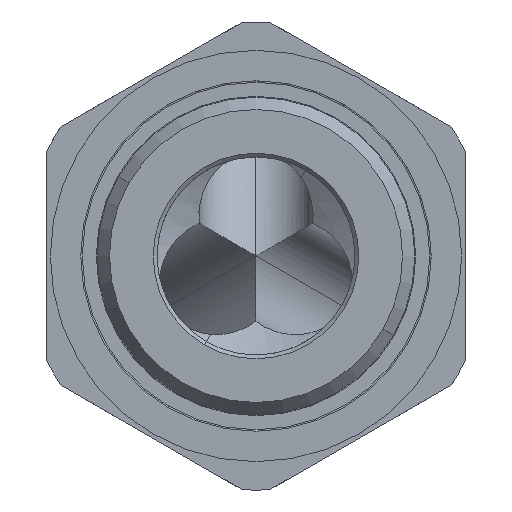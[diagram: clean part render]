
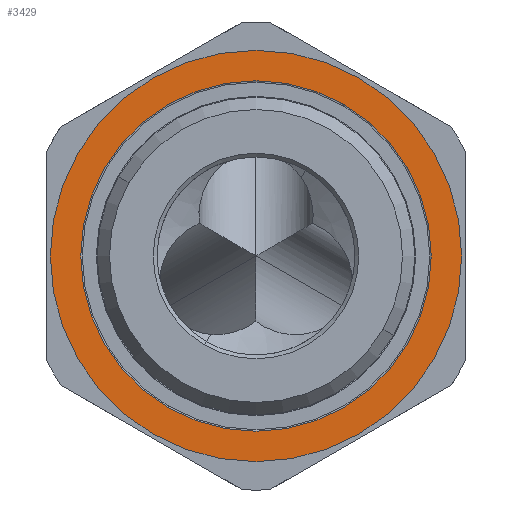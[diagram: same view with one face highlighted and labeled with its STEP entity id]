
A CAD part, front view. The second image highlights one B-rep face of the part: STEP entity #3429.
In plain terms, the highlighted planar face has unit normal (0, -1, 0) as drawn and (-1, 0, 0) by its records, which use the part's own axes.
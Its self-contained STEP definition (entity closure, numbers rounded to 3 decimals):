
#380=CARTESIAN_POINT('',(52.0,22.075,0.));
#381=VERTEX_POINT('',#380);
#390=CARTESIAN_POINT('',(52.0,-31.975,0.));
#391=VERTEX_POINT('',#390);
#392=CARTESIAN_POINT('',(52.0,-4.95,0.0));
#393=DIRECTION('',(-1.0,0.0,0.0));
#394=DIRECTION('',(0.0,1.0,0.0));
#395=AXIS2_PLACEMENT_3D('',#392,#393,#394);
#396=CIRCLE('',#395,27.025);
#397=EDGE_CURVE('',#391,#381,#396,.T.);
#554=CARTESIAN_POINT('',(52.0,18.075,0.));
#555=VERTEX_POINT('',#554);
#564=CARTESIAN_POINT('',(52.0,-27.975,0.));
#565=VERTEX_POINT('',#564);
#566=CARTESIAN_POINT('',(52.0,-4.95,0.0));
#567=DIRECTION('',(1.0,0.0,0.0));
#568=DIRECTION('',(0.0,1.0,0.0));
#569=AXIS2_PLACEMENT_3D('',#566,#567,#568);
#570=CIRCLE('',#569,23.025);
#571=EDGE_CURVE('',#565,#555,#570,.T.);
#3164=CARTESIAN_POINT('',(52.0,-4.95,0.0));
#3165=DIRECTION('',(1.0,0.0,0.0));
#3166=DIRECTION('',(0.0,1.0,0.0));
#3167=AXIS2_PLACEMENT_3D('',#3164,#3165,#3166);
#3168=CIRCLE('',#3167,23.025);
#3169=EDGE_CURVE('',#555,#565,#3168,.T.);
#3275=CARTESIAN_POINT('',(52.0,-4.95,0.0));
#3276=DIRECTION('',(-1.0,0.0,0.0));
#3277=DIRECTION('',(0.0,1.0,0.0));
#3278=AXIS2_PLACEMENT_3D('',#3275,#3276,#3277);
#3279=CIRCLE('',#3278,27.025);
#3280=EDGE_CURVE('',#381,#391,#3279,.T.);
#3416=CARTESIAN_POINT('',(52.0,-4.95,0.));
#3417=DIRECTION('',(1.0,0.0,0.0));
#3418=DIRECTION('',(0.0,0.0,-1.0));
#3419=AXIS2_PLACEMENT_3D('',#3416,#3417,#3418);
#3420=PLANE('',#3419);
#3421=ORIENTED_EDGE('',*,*,#3280,.T.);
#3422=ORIENTED_EDGE('',*,*,#397,.T.);
#3423=EDGE_LOOP('',(#3421,#3422));
#3424=FACE_OUTER_BOUND('',#3423,.T.);
#3425=ORIENTED_EDGE('',*,*,#3169,.T.);
#3426=ORIENTED_EDGE('',*,*,#571,.T.);
#3427=EDGE_LOOP('',(#3425,#3426));
#3428=FACE_BOUND('',#3427,.T.);
#3429=ADVANCED_FACE('',(#3424,#3428),#3420,.F.);
